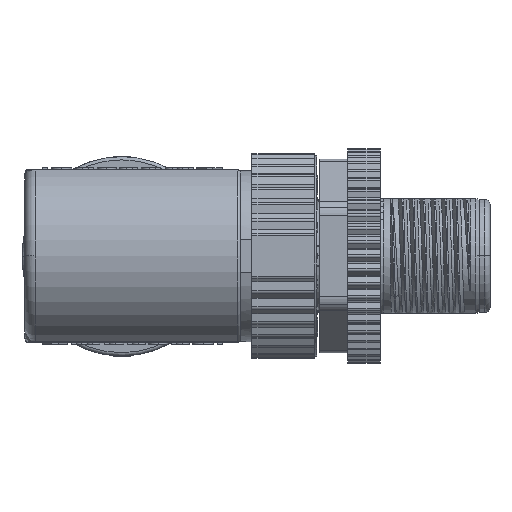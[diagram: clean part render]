
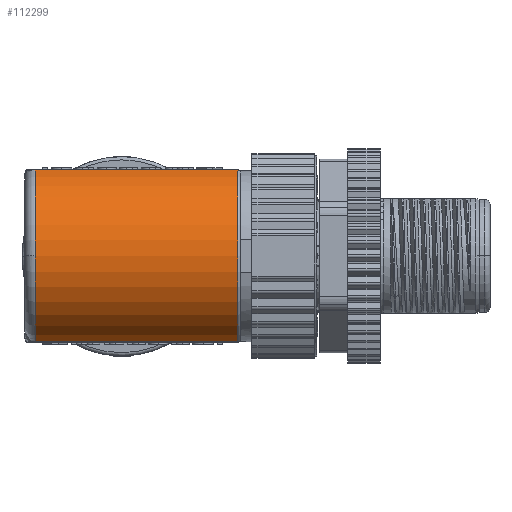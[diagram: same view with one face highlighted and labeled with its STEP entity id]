
A CAD part, top view. The second image highlights one B-rep face of the part: STEP entity #112299.
In plain terms, the highlighted cylindrical face has radius 8.5 mm (diameter 17 mm), a partial arc.
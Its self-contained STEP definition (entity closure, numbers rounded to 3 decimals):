
#41412=DIRECTION('',(1.,0.,0.));
#41413=VECTOR('',#41412,18.8);
#41414=CARTESIAN_POINT('',(-17.378,-7.988,
2.906));
#41415=LINE('',#41414,#41413);
#43061=DIRECTION('',(-1.,0.,0.));
#43062=VECTOR('',#43061,18.8);
#43063=CARTESIAN_POINT('',(1.422,7.988,2.906));
#43064=LINE('',#43063,#43062);
#43074=CARTESIAN_POINT('',(-17.378,0.,0.));
#43075=DIRECTION('',(-1.,0.,0.));
#43076=DIRECTION('',(0.,-0.94,0.342));
#43077=AXIS2_PLACEMENT_3D('',#43074,#43075,#43076);
#43079=CARTESIAN_POINT('',(-17.378,0.,0.));
#43080=DIRECTION('',(-1.,0.,0.));
#43081=DIRECTION('',(0.,0.,1.));
#43082=AXIS2_PLACEMENT_3D('',#43079,#43080,#43081);
#44483=CARTESIAN_POINT('',(1.422,0.,0.));
#44484=DIRECTION('',(-1.,0.,0.));
#44485=DIRECTION('',(0.,-0.94,0.342));
#44486=AXIS2_PLACEMENT_3D('',#44483,#44484,#44485);
#83192=CARTESIAN_POINT('',(-17.378,0.,8.5));
#83193=VERTEX_POINT('',#83192);
#83662=CARTESIAN_POINT('',(1.422,7.988,2.906));
#83663=VERTEX_POINT('',#83662);
#83672=CARTESIAN_POINT('',(1.422,-7.988,
2.906));
#83674=VERTEX_POINT('',#83672);
#84009=CARTESIAN_POINT('',(-17.378,-7.988,
2.906));
#84011=VERTEX_POINT('',#84009);
#84012=CARTESIAN_POINT('',(-17.378,7.988,
2.906));
#84014=VERTEX_POINT('',#84012);
#112284=CARTESIAN_POINT('',(8.922,0.,0.));
#112285=DIRECTION('',(-1.,0.,0.));
#112286=DIRECTION('',(0.,0.,-1.));
#112287=AXIS2_PLACEMENT_3D('',#112284,#112285,#112286);
#112288=CYLINDRICAL_SURFACE('',#112287,8.5);
#112289=ORIENTED_EDGE('',*,*,#109929,.F.);
#112291=ORIENTED_EDGE('',*,*,#112290,.T.);
#112293=ORIENTED_EDGE('',*,*,#112292,.T.);
#112294=ORIENTED_EDGE('',*,*,#112274,.F.);
#112296=ORIENTED_EDGE('',*,*,#112295,.F.);
#112297=EDGE_LOOP('',(#112289,#112291,#112293,#112294,#112296));
#112298=FACE_OUTER_BOUND('',#112297,.F.);
#112299=ADVANCED_FACE('',(#112298),#112288,.T.);
#43078=CIRCLE('',#43077,8.5);
#43083=CIRCLE('',#43082,8.5);
#44487=CIRCLE('',#44486,8.5);
#109929=EDGE_CURVE('',#84011,#83674,#41415,.T.);
#112274=EDGE_CURVE('',#83663,#84014,#43064,.T.);
#112290=EDGE_CURVE('',#84011,#83193,#43078,.T.);
#112292=EDGE_CURVE('',#83193,#84014,#43083,.T.);
#112295=EDGE_CURVE('',#83674,#83663,#44487,.T.);
